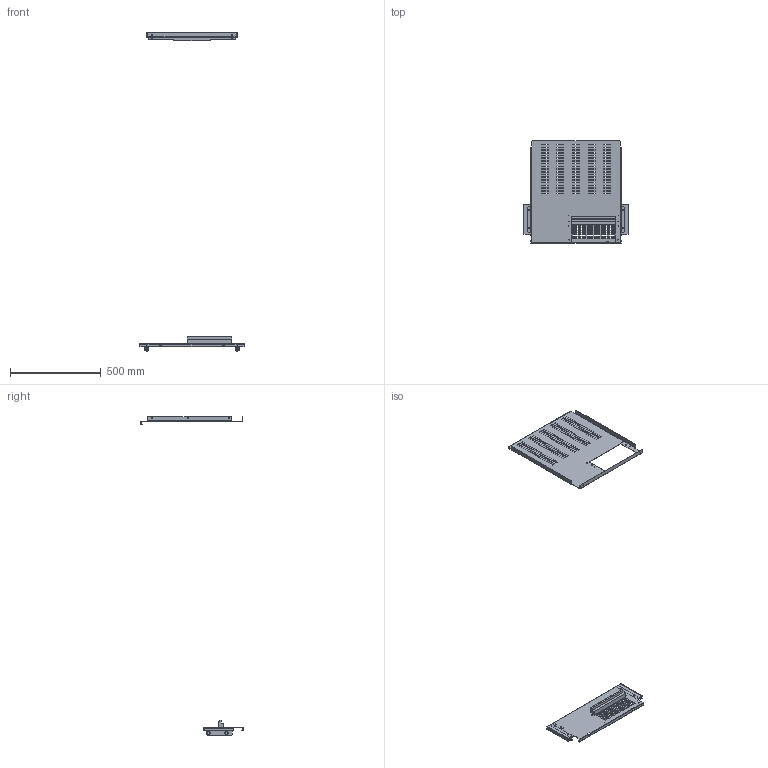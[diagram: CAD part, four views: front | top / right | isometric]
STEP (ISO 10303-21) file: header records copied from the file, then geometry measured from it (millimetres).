
FILE_DESCRIPTION(('CAx-IF Rec.Pracs.---Model Styling and Organization---1.2---2011-12-15','CAx-IF Rec.Pracs.---Geometric and Assembly Validation Properties---4.1---2014-06-16','CAx-IF Rec.Pracs.---PMI Polyline Presentation---2.0---2013-05-24'),'2;1');
FILE_NAME('R5M2UBFS6 (2200x600x600).stp','2021-05-05T12:07:47+03:00',(''),(''),'STEP Interface 4.4 by CT CoreTechnologie','3D_Evolution4.4 by CT CoreTechnologie','');
FILE_SCHEMA(('AUTOMOTIVE_DESIGN { 1 0 10303 214 1 1 1 1 }'));
Length unit declared in the file: millimetre
Products named in the file (8): R5M2UBFS6; M8-DIN 6923 (CM100800)_thread; M8x16-DIN 6921_thread; RB.0837.00.00.0_-00; RB.0837.00.00.0_-01; RB.0792.00.00.0_-00; RB.0877.00.00.0_-00; RB.0876.00.00.0_-00
Assembly tree (13 placements, depth 2):
  R5M2UBFS6
    M8-DIN 6923 (CM100800)_thread  x4
    M8x16-DIN 6921_thread  x4
    RB.0837.00.00.0_-00
    RB.0837.00.00.0_-01
    RB.0792.00.00.0_-00
    RB.0877.00.00.0_-00
    RB.0876.00.00.0_-00
Bounding box: 580 x 565.5 x 1757 mm (x, y, z)
Surface area: 945659.2 mm2 (no closed solid volume)
Topology: 0 solids, 13 shells, 1219 faces, 3226 edges, 2029 vertices
Faces by surface type: plane 783, bspline 264, cylinder 172
Entity records: 31991 total; most frequent: CARTESIAN_POINT 6780, ORIENTED_EDGE 5264, DIRECTION 4640, EDGE_CURVE 2632, VECTOR 2262, LINE 2262, VERTEX_POINT 1705, EDGE_LOOP 1293
